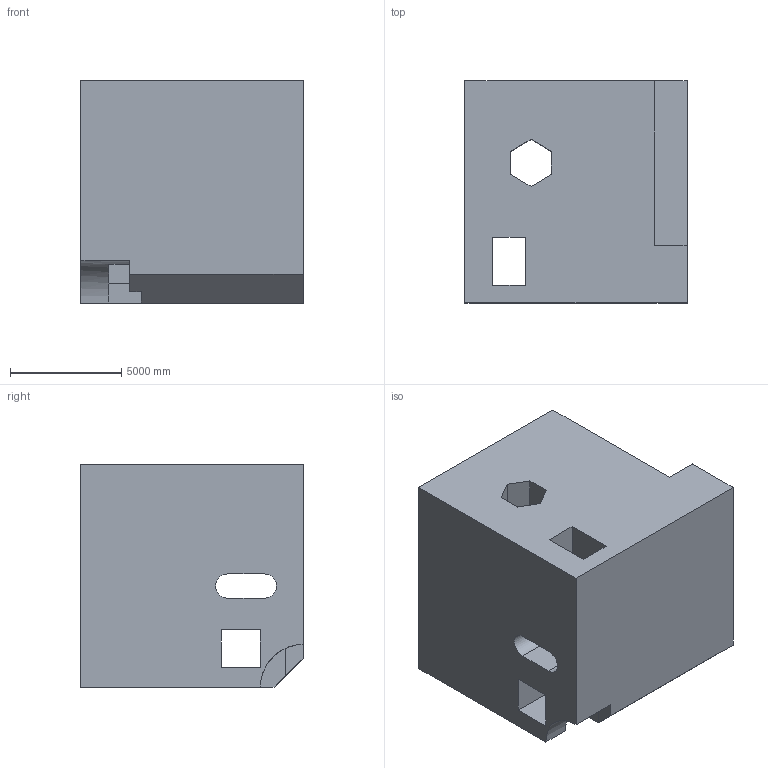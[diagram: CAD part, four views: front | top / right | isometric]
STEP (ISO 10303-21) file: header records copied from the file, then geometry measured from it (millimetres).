
FILE_DESCRIPTION (( 'STEP AP203' ), '1' );
FILE_NAME ('1728.STEP', '2022-08-19T12:08:31', ( 'user' ), ( '' ), 'SwSTEP 2.0', 'SolidWorks 2021', '' );
FILE_SCHEMA (( 'CONFIG_CONTROL_DESIGN' ));
Length unit declared in the file: centimetre
Products named in the file (1): 1728
Bounding box: 10000 x 10000 x 10000 mm (x, y, z)
Volume: 862954816528.4 mm3; surface area: 800996508.4 mm2
Topology: 1 solids, 1 shells, 37 faces, 123 edges, 82 vertices
Faces by surface type: plane 32, cylinder 5
Entity records: 1429 total; most frequent: ORIENTED_EDGE 246, CARTESIAN_POINT 243, DIRECTION 210, EDGE_CURVE 123, LINE 112, VECTOR 112, VERTEX_POINT 82, AXIS2_PLACEMENT_3D 49
